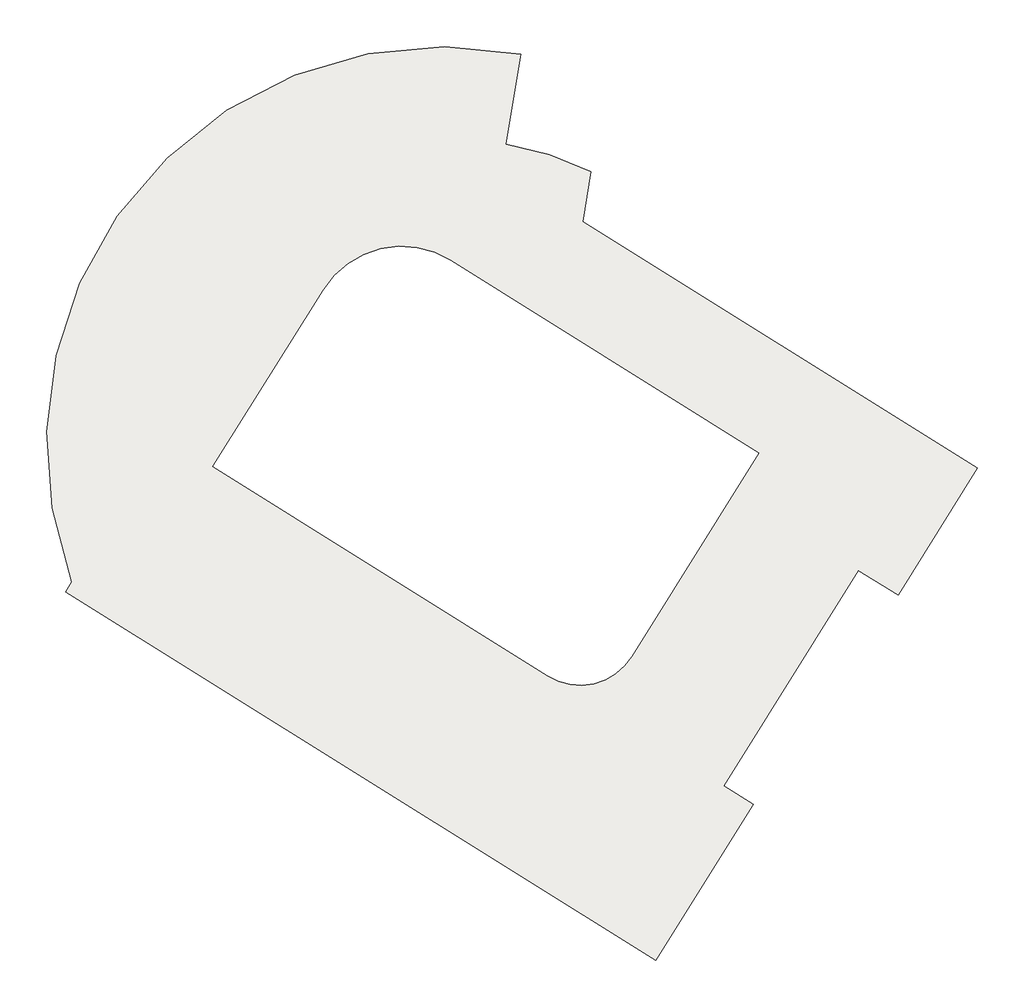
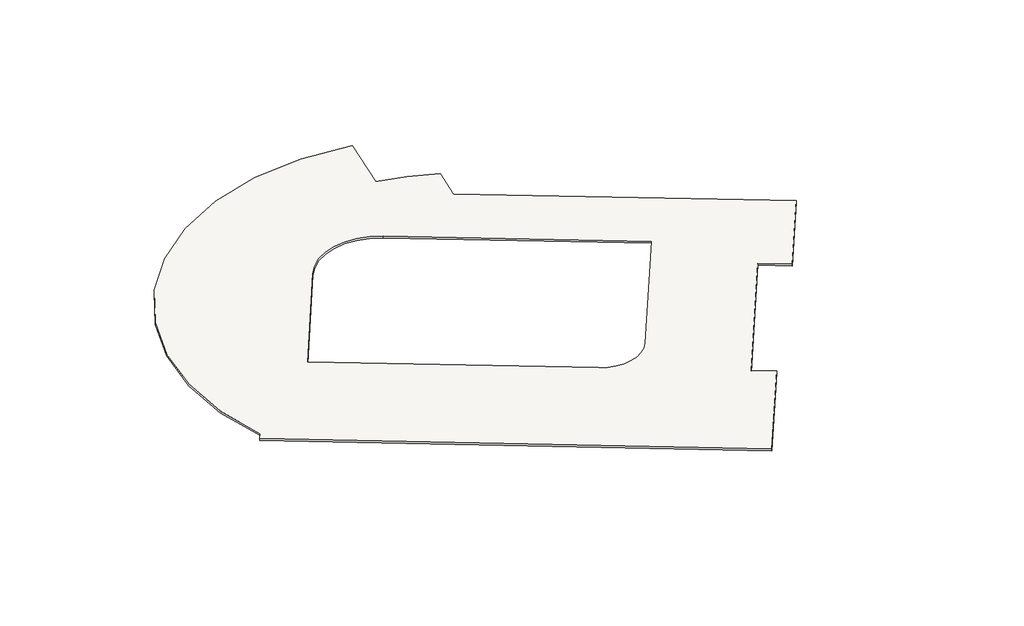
# One storey, incomplete: 1 roof.
"""IFC4 building model written with IfcOpenShell, lengths in millimetres."""

from ifc_helpers import new_model, si_unit, frame, origin, place, context, project, spatial, polyline, circle_curve, element, save
from ifc_brep_helpers import plane_surface, cylinder_surface, revolved_surface, advanced_brep

model = new_model("IFC4")

# Units and contexts
model_context = context("Model", 3, world=origin())
ifc_project = project(units=[si_unit("LENGTHUNIT", "METRE", prefix="MILLI")], contexts=[model_context])

# Site, building, storey
site = spatial("IfcSite", under=ifc_project)
building = spatial("IfcBuilding", under=site)
storey = spatial("IfcBuildingStorey", under=building, Name="\u200fطبقه دوم", Elevation=7200.0)

# Roof
placement = place(None, origin())
element("IfcRoof", 1, ObjectType="Generic - 400mm", at=placement, inside=storey, context=model_context, shape_type="AdvancedBrep", body=[
    advanced_brep(
    [(37474.4778337, -20215.0266492, 7200.0), (62780.8322341, -36028.1919225, 7200.0), (57693.6072975, -44169.4536456, 7200.0), (55149.463009, -42579.6958529, 7200.0), (46503.9173044, -56415.4611664, 7200.0), (48383.4012778, -57589.8930988, 7200.0), (42130.7967878, -67596.1519607, 7200.0), (4307.8516992, -43961.7527759, 7200.0), (4699.4334687, -43335.0909491, 7200.0), (33492.5116112, -9469.0032283, 7200.0), (32530.3086279, -15224.237781, 7200.0), (37988.2881496, -16983.7030198, 7200.0), (40601.8127486, -48122.2466286, 7200.0), (48767.5679632, -35054.306603, 7200.0), (28968.3249901, -22682.3664782, 7200.0), (20834.0680777, -24566.1374848, 7200.0), (13729.9844746, -35935.047772, 7200.0), (35222.3585395, -49364.973625, 7200.0), (62780.8322341, -36028.1919225, 7400.0), (37474.4778337, -20215.0266492, 7400.0), (37988.2881496, -16983.7030198, 7400.0), (32530.3086279, -15224.237781, 7400.0), (33492.5116112, -9469.0032283, 7400.0), (4699.4334687, -43335.0909491, 7400.0), (4307.8516992, -43961.7527759, 7400.0), (42130.7967878, -67596.1519607, 7400.0), (48383.4012778, -57589.8930988, 7400.0), (46503.9173044, -56415.4611664, 7400.0), (55149.463009, -42579.6958529, 7400.0), (57693.6072975, -44169.4536456, 7400.0), (48767.5679632, -35054.306603, 7400.0), (40601.8127486, -48122.2466286, 7400.0), (35222.3585395, -49364.973625, 7400.0), (13729.9844746, -35935.047772, 7400.0), (20834.0680777, -24566.1374848, 7400.0), (28968.3234538, -22682.3689368, 7400.0)],
    [
        (0, 1),
        (1, 2),
        (2, 3),
        (3, 4),
        (4, 5),
        (5, 6),
        (6, 7),
        (7, 8),
        (8, 9, circle_curve(frame((28463.2186017, -34366.1157481, 7200.0), z_axis=(0.0, 0.0, -1.0), x_axis=(1.0, 0.0, 0.0)), 25400.0)),
        (9, 10),
        (10, 11, circle_curve(frame((29284.4488792, -34638.3554793, 7200.0), z_axis=(0.0, 0.0, -1.0), x_axis=(1.0, 0.0, 0.0)), 19683.5863478)),
        (11, 0),
        (12, 13),
        (13, 14),
        (14, 15, circle_curve(frame((25841.7997949, -27685.8527041, 7200.0), z_axis=(0.0, 0.0, 1.0), x_axis=(1.0, 0.0, 0.0)), 5900.0)),
        (15, 16),
        (16, 17),
        (17, 12, circle_curve(frame((37292.0055839, -46059.4387043, 7200.0), z_axis=(0.0, 0.0, 1.0), x_axis=(1.0, 0.0, 0.0)), 3900.0)),
        (18, 19),
        (19, 20),
        (20, 21, circle_curve(frame((29284.4488792, -34638.3554793, 7400.0), z_axis=(0.0, 0.0, 1.0), x_axis=(1.0, 0.0, 0.0)), 19683.5863478)),
        (21, 22),
        (22, 23, circle_curve(frame((28463.2186017, -34366.1157481, 7400.0), z_axis=(0.0, 0.0, 1.0), x_axis=(1.0, 0.0, 0.0)), 25400.0)),
        (23, 24),
        (24, 25),
        (25, 26),
        (26, 27),
        (27, 28),
        (28, 29),
        (29, 18),
        (30, 31),
        (31, 32, circle_curve(frame((37292.0055839, -46059.4387043, 7400.0), z_axis=(0.0, 0.0, -1.0), x_axis=(1.0, 0.0, 0.0)), 3900.0)),
        (32, 33),
        (33, 34),
        (34, 35, circle_curve(frame((25841.7997949, -27685.8527041, 7400.0), z_axis=(0.0, 0.0, -1.0), x_axis=(1.0, 0.0, 0.0)), 5900.0)),
        (35, 30),
        (0, 19),
        (18, 1),
        (11, 20),
        (29, 2),
        (28, 3),
        (27, 4),
        (26, 5),
        (25, 6),
        (24, 7),
        (8, 23),
        (22, 9),
        (21, 10),
        (30, 13),
        (12, 31),
        (17, 32),
        (16, 33),
        (15, 34),
        (14, 35),
    ],
    [
        plane_surface(frame((37474.4778337, -20215.0266492, 7200.0), z_axis=(0.0, 0.0, -1.0), x_axis=(1.0, 0.0, 0.0))),
        plane_surface(frame((37474.4778337, -20215.0266492, 7400.0), z_axis=(0.0, 0.0, 1.0), x_axis=(1.0, 0.0, 0.0))),
        plane_surface(frame((62780.8322341, -36028.1919225, 7200.0), z_axis=(0.529919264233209, 0.8480480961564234, 0.0), x_axis=(-0.8480480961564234, 0.529919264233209, 0.0))),
        plane_surface(frame((37474.4778337, -20215.0266492, 7200.0), z_axis=(0.9875928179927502, -0.15703638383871, 0.0), x_axis=(0.15703638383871, 0.9875928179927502, 0.0))),
        plane_surface(frame((57693.6072975, -44169.4536456, 7200.0), z_axis=(0.8480480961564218, -0.5299192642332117, 0.0), x_axis=(0.5299192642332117, 0.8480480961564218, 0.0))),
        plane_surface(frame((55149.463009, -42579.6958529, 7200.0), z_axis=(-0.5299192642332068, -0.8480480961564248, 0.0), x_axis=(0.8480480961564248, -0.5299192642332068, 0.0))),
        plane_surface(frame((46503.9173044, -56415.4611664, 7200.0), z_axis=(0.8480480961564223, -0.5299192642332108, 0.0), x_axis=(0.5299192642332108, 0.8480480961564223, 0.0))),
        plane_surface(frame((48383.4012778, -57589.8930988, 7200.0), z_axis=(0.5299192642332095, 0.8480480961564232, 0.0), x_axis=(-0.8480480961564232, 0.5299192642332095, 0.0))),
        plane_surface(frame((42130.7967878, -67596.1519607, 7200.0), z_axis=(0.8480480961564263, -0.5299192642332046, 0.0), x_axis=(0.5299192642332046, 0.8480480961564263, 0.0))),
        plane_surface(frame((4307.8516992, -43961.7527759, 7200.0), z_axis=(-0.5299192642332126, -0.8480480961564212, 0.0), x_axis=(0.8480480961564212, -0.5299192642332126, 0.0))),
        cylinder_surface(frame((28463.2186017, -34366.1157481, 7200.0), z_axis=(0.0, 0.0, 1.0), x_axis=(1.0, 0.0, 0.0)), 25400.0),
        plane_surface(frame((32530.3086279, -15224.237781, 7200.0), z_axis=(0.9863105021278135, -0.16489873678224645, 0.0), x_axis=(0.16489873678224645, 0.9863105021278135, 0.0))),
        cylinder_surface(frame((29284.4488792, -34638.3554793, 7200.0), z_axis=(0.0, 0.0, 1.0), x_axis=(1.0, 0.0, 0.0)), 19683.5863478),
        plane_surface(frame((4699.4334687, -43335.0909491, 7200.0), z_axis=(-0.8480480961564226, 0.5299192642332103, 0.0), x_axis=(-0.5299192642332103, -0.8480480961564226, 0.0))),
        plane_surface(frame((48767.5679632, -35054.306603, 7100.0), z_axis=(-0.8480480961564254, 0.5299192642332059, 0.0), x_axis=(0.0, 0.0, 1.0))),
        revolved_surface(polyline([(41192.0055839, -46059.4387043, 7200.0), (41192.0055839, -46059.4387043, 7400.0)]), (37292.0055839, -46059.4387043, 7500.0), (0.0, 0.0, -1.0)),
        plane_surface(frame((35222.3585395, -49364.973625, 7100.0), z_axis=(0.5299192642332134, 0.8480480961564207, 0.0), x_axis=(0.0, 0.0, 1.0))),
        plane_surface(frame((13729.9844746, -35935.047772, 7100.0), z_axis=(0.848048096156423, -0.52991926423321, 0.0), x_axis=(0.0, 0.0, 1.0))),
        revolved_surface(polyline([(31741.7997949, -27685.8527041, 7200.0), (31741.7997949, -27685.8527041, 7400.0)]), (25841.7997949, -27685.8527041, 7500.0), (0.0, 0.0, -1.0)),
        plane_surface(frame((28968.3249901, -22682.3664782, 7100.0), z_axis=(-0.5299192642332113, -0.848048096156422, 0.0), x_axis=(0.0, 0.0, 1.0))),
    ],
    [
        (0, [[1, 2, 3, 4, 5, 6, 7, 8, 9, 10, 11, 12], [13, 14, 15, 16, 17, 18]]),
        (1, [[19, 20, 21, 22, 23, 24, 25, 26, 27, 28, 29, 30], [31, 32, 33, 34, 35, 36]]),
        (2, [[-1, 37, -19, 38]]),
        (3, [[-12, 39, -20, -37]]),
        (4, [[-2, -38, -30, 40]]),
        (5, [[-3, -40, -29, 41]]),
        (6, [[-4, -41, -28, 42]]),
        (7, [[-5, -42, -27, 43]]),
        (8, [[-6, -43, -26, 44]]),
        (9, [[-7, -44, -25, 45]]),
        (10, [[-9, 46, -23, 47]]),
        (11, [[-10, -47, -22, 48]]),
        (12, [[-11, -48, -21, -39]]),
        (13, [[-8, -45, -24, -46]]),
        (14, [[49, -13, 50, -31]]),
        (15, [[-50, -18, 51, -32]]),
        (16, [[-51, -17, 52, -33]]),
        (17, [[-52, -16, 53, -34]]),
        (18, [[-53, -15, 54, -35]]),
        (19, [[-49, -36, -54, -14]]),
    ],
),
])

save(model, "model.ifc")
